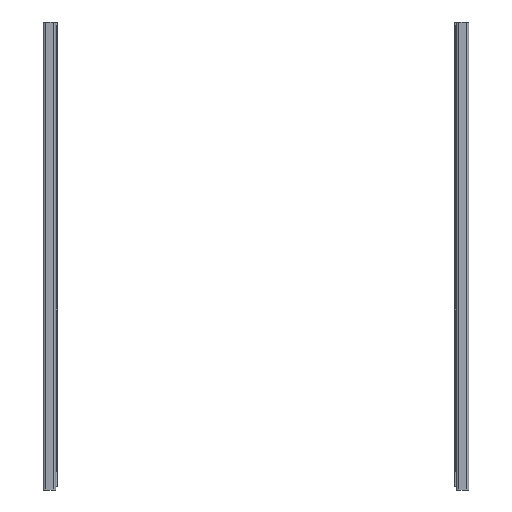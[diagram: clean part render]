
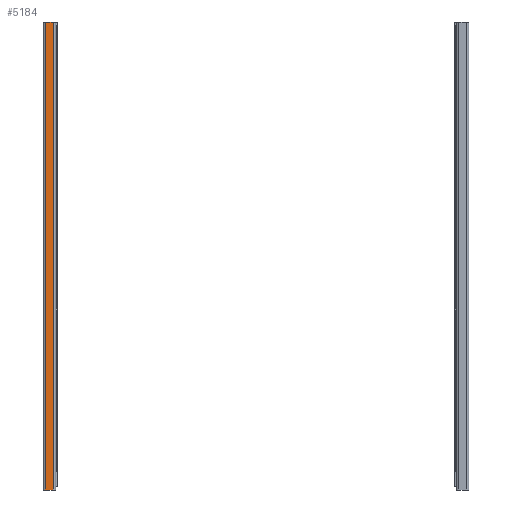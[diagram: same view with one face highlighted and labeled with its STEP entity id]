
A CAD part, front view. The second image highlights one B-rep face of the part: STEP entity #5184.
In plain terms, the highlighted planar face has unit normal (0, -1, 0).
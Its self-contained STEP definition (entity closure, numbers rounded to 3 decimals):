
#196=PLANE('',#5623);
#374=FACE_OUTER_BOUND('',#663,.T.);
#663=EDGE_LOOP('',(#3926,#3927,#3928,#3929));
#945=LINE('',#7854,#1424);
#1075=LINE('',#8132,#1554);
#1076=LINE('',#8136,#1555);
#1077=LINE('',#8137,#1556);
#1424=VECTOR('',#6248,10.);
#1554=VECTOR('',#6606,10.);
#1555=VECTOR('',#6611,10.);
#1556=VECTOR('',#6612,10.);
#2241=VERTEX_POINT('',#7851);
#2242=VERTEX_POINT('',#7853);
#2276=VERTEX_POINT('',#8131);
#2277=VERTEX_POINT('',#8135);
#2736=EDGE_CURVE('',#2241,#2242,#945,.T.);
#2875=EDGE_CURVE('',#2276,#2242,#1075,.T.);
#2877=EDGE_CURVE('',#2241,#2277,#1076,.T.);
#2878=EDGE_CURVE('',#2276,#2277,#1077,.T.);
#3926=ORIENTED_EDGE('',*,*,#2875,.T.);
#3927=ORIENTED_EDGE('',*,*,#2736,.F.);
#3928=ORIENTED_EDGE('',*,*,#2877,.T.);
#3929=ORIENTED_EDGE('',*,*,#2878,.F.);
#5184=ADVANCED_FACE('',(#374),#196,.T.);
#5623=AXIS2_PLACEMENT_3D('',#8134,#6609,#6610);
#6248=DIRECTION('',(-1.,0.,0.));
#6606=DIRECTION('',(0.,0.,-1.));
#6609=DIRECTION('center_axis',(0.,-1.,0.));
#6610=DIRECTION('ref_axis',(-1.,0.,0.));
#6611=DIRECTION('',(0.,0.,1.));
#6612=DIRECTION('',(1.,0.,0.));
#7851=CARTESIAN_POINT('',(8.8,-17.4,-400.));
#7853=CARTESIAN_POINT('',(2.,-17.4,-400.));
#7854=CARTESIAN_POINT('',(0.,-17.4,-400.));
#8131=CARTESIAN_POINT('',(2.,-17.4,0.));
#8132=CARTESIAN_POINT('',(2.,-17.4,0.));
#8134=CARTESIAN_POINT('Origin',(10.8,-17.4,0.));
#8135=CARTESIAN_POINT('',(8.8,-17.4,0.));
#8136=CARTESIAN_POINT('',(8.8,-17.4,0.));
#8137=CARTESIAN_POINT('',(0.,-17.4,0.));
